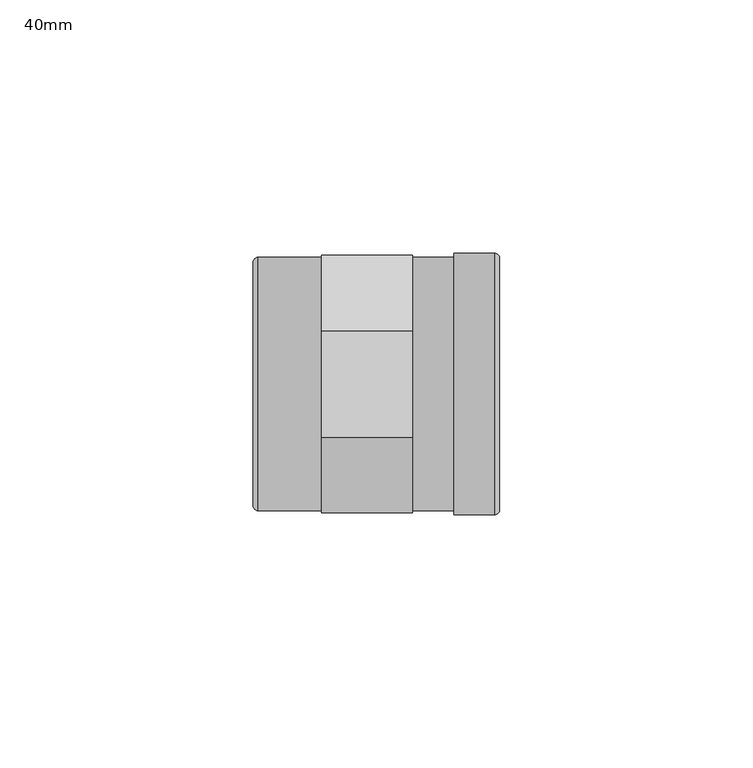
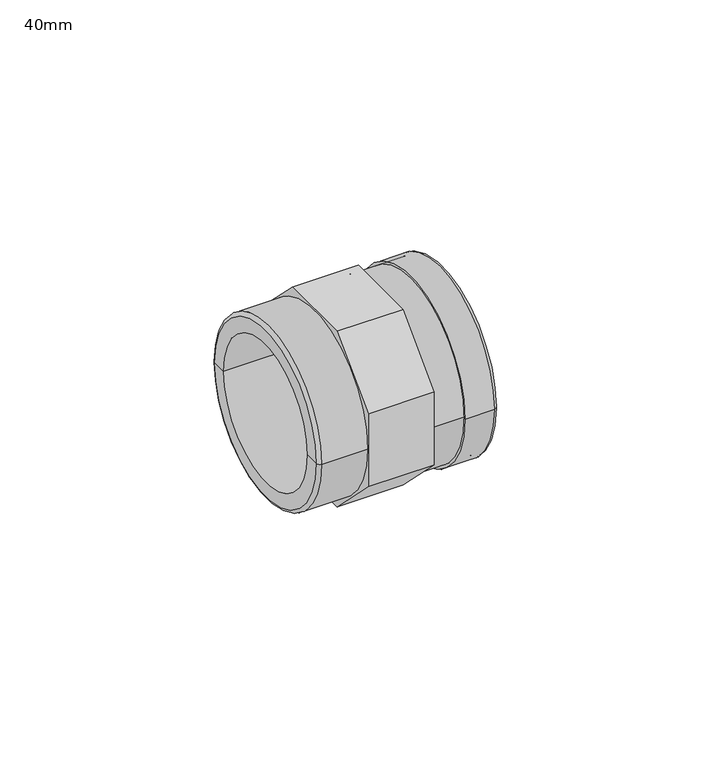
"""IFC4 building model written with IfcOpenShell, lengths in millimetres: pipe fitting geometry, Durapipe_PipeFitting_PVC_PlainThreadedSockets : 40mm."""

from ifc_helpers import new_model, si_unit, point, frame, origin, origin_2d, place, context, project, spatial, polyline, circle_curve, ellipse_curve, trimmed, segment, composite_curve, outline, extrude, source, transform, mapped, element, save
from ifc_brep_helpers import plane_surface, cylinder_surface, revolved_surface, advanced_brep


def pipe_fitting_40mm_57a51237(model_context):
    return source(origin(), model_context, "Body", "SolidModel", [
        extrude(outline(polyline([(-25.4, 10.5210245), (-10.5210245, 25.4), (10.5210245, 25.4), (25.4, 10.5210245), (25.4, -10.5210245), (10.5210245, -25.4), (-10.5210245, -25.4), (-25.4, -10.5210245), (-25.4, 10.5210245)]), holes=[composite_curve([segment(trimmed(circle_curve(origin_2d(), 25.0), [point((-25.0, 0.0))], [point((25.0, 0.0))], True, "CARTESIAN"), True, "CONTINUOUS"), segment(trimmed(circle_curve(origin_2d(), 25.0), [point((25.0, 0.0))], [point((-25.0, 0.0))], True, "CARTESIAN"), True, "CONTINUOUS")], self_intersect=False)]), frame((-15.0, 0.0, 0.0), z_axis=(1.0, 0.0, 0.0), x_axis=(0.0, 1.0, 0.0)), (0.0, 0.0, 1.0), 18.0),
        advanced_brep(
        [(17.7, -25.0, 0.0), (17.7, 25.0, 0.0), (17.7, 20.0, 0.0), (17.7, -20.0, 0.0), (-27.5, -25.0, 0.0), (-27.5, 25.0, 0.0), (-28.5, -20.0, 0.0), (-28.5, 20.0, 0.0), (-28.5, 24.0, 0.0), (-28.5, -24.0, 0.0), (-2.5, -20.0, 0.0), (-2.5, 20.0, 0.0), (-2.5, -18.7, 0.0), (-2.5, 18.7, 0.0), (2.5, -18.7, 0.0), (2.5, 18.7, 0.0), (2.5, -20.0, 0.0), (2.5, 20.0, 0.0)],
        [
            (0, 1, circle_curve(frame((17.7, 0.0, 0.0), z_axis=(1.0, 0.0, 0.0), x_axis=(0.0, 1.0, 0.0)), 25.0)),
            (1, 2),
            (2, 3, circle_curve(frame((17.7, 0.0, 0.0), z_axis=(-1.0, 0.0, 0.0), x_axis=(0.0, 1.0, 0.0)), 20.0)),
            (3, 0),
            (1, 0, circle_curve(frame((17.7, 0.0, 0.0), z_axis=(1.0, 0.0, 0.0), x_axis=(0.0, 1.0, 0.0)), 25.0)),
            (3, 2, circle_curve(frame((17.7, 0.0, 0.0), z_axis=(-1.0, 0.0, 0.0), x_axis=(0.0, 1.0, 0.0)), 20.0)),
            (4, 5, circle_curve(frame((-27.5, 0.0, 0.0), z_axis=(1.0, 0.0, 0.0), x_axis=(0.0, 1.0, 0.0)), 25.0)),
            (5, 1),
            (0, 4),
            (5, 4, circle_curve(frame((-27.5, 0.0, 0.0), z_axis=(1.0, 0.0, 0.0), x_axis=(0.0, 1.0, 0.0)), 25.0)),
            (6, 7, circle_curve(frame((-28.5, 0.0, 0.0), z_axis=(1.0, 0.0, 0.0), x_axis=(0.0, 1.0, 0.0)), 20.0)),
            (7, 8),
            (8, 9, circle_curve(frame((-28.5, 0.0, 0.0), z_axis=(-1.0, 0.0, 0.0), x_axis=(0.0, 1.0, 0.0)), 24.0)),
            (9, 6),
            (7, 6, circle_curve(frame((-28.5, 0.0, 0.0), z_axis=(1.0, 0.0, 0.0), x_axis=(0.0, 1.0, 0.0)), 20.0)),
            (9, 8, circle_curve(frame((-28.5, 0.0, 0.0), z_axis=(-1.0, 0.0, 0.0), x_axis=(0.0, 1.0, 0.0)), 24.0)),
            (10, 11, circle_curve(frame((-2.5, 0.0, 0.0), z_axis=(1.0, 0.0, 0.0), x_axis=(0.0, 1.0, 0.0)), 20.0)),
            (11, 7),
            (6, 10),
            (11, 10, circle_curve(frame((-2.5, 0.0, 0.0), z_axis=(1.0, 0.0, 0.0), x_axis=(0.0, 1.0, 0.0)), 20.0)),
            (12, 13, circle_curve(frame((-2.5, 0.0, 0.0), z_axis=(1.0, 0.0, 0.0), x_axis=(0.0, 1.0, 0.0)), 18.7)),
            (13, 11),
            (10, 12),
            (13, 12, circle_curve(frame((-2.5, 0.0, 0.0), z_axis=(1.0, 0.0, 0.0), x_axis=(0.0, 1.0, 0.0)), 18.7)),
            (14, 15, circle_curve(frame((2.5, 0.0, 0.0), z_axis=(1.0, 0.0, 0.0), x_axis=(0.0, 1.0, 0.0)), 18.7)),
            (15, 13),
            (12, 14),
            (15, 14, circle_curve(frame((2.5, 0.0, 0.0), z_axis=(1.0, 0.0, 0.0), x_axis=(0.0, 1.0, 0.0)), 18.7)),
            (16, 17, circle_curve(frame((2.5, 0.0, 0.0), z_axis=(1.0, 0.0, 0.0), x_axis=(0.0, 1.0, 0.0)), 20.0)),
            (17, 15),
            (14, 16),
            (17, 16, circle_curve(frame((2.5, 0.0, 0.0), z_axis=(1.0, 0.0, 0.0), x_axis=(0.0, 1.0, 0.0)), 20.0)),
            (2, 17),
            (16, 3),
            (8, 5, circle_curve(frame((-27.5, 24.0, 0.0), z_axis=(0.0, 0.0, -1.0), x_axis=(1.0, 0.0, 0.0)), 1.0)),
            (4, 9, circle_curve(frame((-27.5, -24.0, 0.0), z_axis=(0.0, 0.0, -1.0), x_axis=(1.0, 0.0, 0.0)), 1.0)),
        ],
        [
            plane_surface(frame((17.7, 0.0, 0.0), z_axis=(1.0, 0.0, 0.0), x_axis=(0.0, 1.0, 0.0))),
            cylinder_surface(frame((-44.0846764, 0.0, 0.0), z_axis=(-1.0, 0.0, 0.0), x_axis=(0.0, 1.0, 0.0)), 25.0),
            plane_surface(frame((-28.5, 0.0, 0.0), z_axis=(-1.0, 0.0, 0.0), x_axis=(0.0, 1.0, 0.0))),
            revolved_surface(polyline([(-28.5, 20.0, 0.0), (-2.5, 20.0, 0.0)]), (-44.0846764, 0.0, 0.0), (-1.0, 0.0, 0.0)),
            plane_surface(frame((-2.5, 0.0, 0.0), z_axis=(-1.0, 0.0, 0.0), x_axis=(0.0, 1.0, 0.0))),
            revolved_surface(polyline([(-2.5, 18.7, 0.0), (2.5, 18.7, 0.0)]), (-44.0846764, 0.0, 0.0), (-1.0, 0.0, 0.0)),
            plane_surface(frame((2.5, 0.0, 0.0), z_axis=(1.0, 0.0, 0.0), x_axis=(0.0, 1.0, 0.0))),
            revolved_surface(polyline([(2.5, 20.0, 0.0), (17.699999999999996, 20.0, 0.0)]), (-44.0846764, 0.0, 0.0), (-1.0, 0.0, 0.0)),
            revolved_surface(trimmed(ellipse_curve(frame((-27.5, 24.0, 0.0), z_axis=(0.0, 0.0, 1.0), x_axis=(1.0, 0.0, 0.0)), 1.0, 1.0), [point((-27.5, 25.0, 0.0))], [point((-28.5, 24.0, 0.0))], True, "CARTESIAN"), (-44.0846764, 0.0, 0.0), (-1.0, 0.0, 0.0)),
        ],
        [
            (0, [[1, 2, 3, 4]]),
            (0, [[5, -4, 6, -2]]),
            (1, [[7, 8, -1, 9]]),
            (1, [[10, -9, -5, -8]]),
            (2, [[11, 12, 13, 14]]),
            (2, [[15, -14, 16, -12]]),
            (3, [[17, 18, -11, 19]]),
            (3, [[20, -19, -15, -18]]),
            (4, [[21, 22, -17, 23]]),
            (4, [[24, -23, -20, -22]]),
            (5, [[25, 26, -21, 27]]),
            (5, [[28, -27, -24, -26]]),
            (6, [[29, 30, -25, 31]]),
            (6, [[32, -31, -28, -30]]),
            (7, [[-3, 33, -29, 34]]),
            (7, [[-6, -34, -32, -33]]),
            (8, [[-13, 35, -7, 36]]),
            (8, [[-16, -36, -10, -35]]),
        ],
    ),
        advanced_brep(
        [(11.2, -25.0, 0.0), (11.2, 25.0, 0.0), (11.2, 25.8, 0.0), (11.2, -25.8, 0.0), (17.7, -25.0, 0.0), (17.7, 25.0, 0.0), (17.7, -21.5, 0.0), (17.7, 21.5, 0.0), (20.2, -21.5, 0.0), (20.2, 21.5, 0.0), (20.2, -24.8, 0.0), (20.2, 24.8, 0.0), (19.2, 25.8, 0.0), (19.2, -25.8, 0.0)],
        [
            (0, 1, circle_curve(frame((11.2, 0.0, 0.0), z_axis=(1.0, 0.0, 0.0), x_axis=(0.0, 1.0, 0.0)), 25.0)),
            (1, 2),
            (2, 3, circle_curve(frame((11.2, 0.0, 0.0), z_axis=(-1.0, 0.0, 0.0), x_axis=(0.0, 1.0, 0.0)), 25.8)),
            (3, 0),
            (1, 0, circle_curve(frame((11.2, 0.0, 0.0), z_axis=(1.0, 0.0, 0.0), x_axis=(0.0, 1.0, 0.0)), 25.0)),
            (3, 2, circle_curve(frame((11.2, 0.0, 0.0), z_axis=(-1.0, 0.0, 0.0), x_axis=(0.0, 1.0, 0.0)), 25.8)),
            (4, 5, circle_curve(frame((17.7, 0.0, 0.0), z_axis=(1.0, 0.0, 0.0), x_axis=(0.0, 1.0, 0.0)), 25.0)),
            (5, 1),
            (0, 4),
            (5, 4, circle_curve(frame((17.7, 0.0, 0.0), z_axis=(1.0, 0.0, 0.0), x_axis=(0.0, 1.0, 0.0)), 25.0)),
            (6, 7, circle_curve(frame((17.7, 0.0, 0.0), z_axis=(1.0, 0.0, 0.0), x_axis=(0.0, 1.0, 0.0)), 21.5)),
            (7, 5),
            (4, 6),
            (7, 6, circle_curve(frame((17.7, 0.0, 0.0), z_axis=(1.0, 0.0, 0.0), x_axis=(0.0, 1.0, 0.0)), 21.5)),
            (8, 9, circle_curve(frame((20.2, 0.0, 0.0), z_axis=(1.0, 0.0, 0.0), x_axis=(0.0, 1.0, 0.0)), 21.5)),
            (9, 7),
            (6, 8),
            (9, 8, circle_curve(frame((20.2, 0.0, 0.0), z_axis=(1.0, 0.0, 0.0), x_axis=(0.0, 1.0, 0.0)), 21.5)),
            (10, 11, circle_curve(frame((20.2, 0.0, 0.0), z_axis=(1.0, 0.0, 0.0), x_axis=(0.0, 1.0, 0.0)), 24.8)),
            (11, 9),
            (8, 10),
            (11, 10, circle_curve(frame((20.2, 0.0, 0.0), z_axis=(1.0, 0.0, 0.0), x_axis=(0.0, 1.0, 0.0)), 24.8)),
            (2, 12),
            (12, 13, circle_curve(frame((19.2, 0.0, 0.0), z_axis=(-1.0, 0.0, 0.0), x_axis=(0.0, 1.0, 0.0)), 25.8)),
            (13, 3),
            (13, 12, circle_curve(frame((19.2, 0.0, 0.0), z_axis=(-1.0, 0.0, 0.0), x_axis=(0.0, 1.0, 0.0)), 25.8)),
            (12, 11, circle_curve(frame((19.2, 24.8, 0.0), z_axis=(0.0, 0.0, -1.0), x_axis=(1.0, 0.0, 0.0)), 1.0)),
            (10, 13, circle_curve(frame((19.2, -24.8, 0.0), z_axis=(0.0, 0.0, -1.0), x_axis=(1.0, 0.0, 0.0)), 1.0)),
        ],
        [
            plane_surface(frame((11.2, 0.0, 0.0), z_axis=(-1.0, 0.0, 0.0), x_axis=(0.0, 1.0, 0.0))),
            revolved_surface(polyline([(11.2, 25.0, 0.0), (17.7, 25.0, 0.0)]), (26.1037641, 0.0, 0.0), (-1.0, 0.0, 0.0)),
            plane_surface(frame((17.7, 0.0, 0.0), z_axis=(-1.0, 0.0, 0.0), x_axis=(0.0, 1.0, 0.0))),
            revolved_surface(polyline([(17.7, 21.5, 0.0), (20.2, 21.5, 0.0)]), (26.1037641, 0.0, 0.0), (-1.0, 0.0, 0.0)),
            plane_surface(frame((20.2, 0.0, 0.0), z_axis=(1.0, 0.0, 0.0), x_axis=(0.0, 1.0, 0.0))),
            cylinder_surface(frame((26.1037641, 0.0, 0.0), z_axis=(-1.0, 0.0, 0.0), x_axis=(0.0, 1.0, 0.0)), 25.8),
            revolved_surface(trimmed(ellipse_curve(frame((19.2, 24.8, 0.0), z_axis=(0.0, 0.0, 1.0), x_axis=(1.0, 0.0, 0.0)), 1.0, 1.0), [point((20.2, 24.8, 0.0))], [point((19.2, 25.8, 0.0))], True, "CARTESIAN"), (26.1037641, 0.0, 0.0), (-1.0, 0.0, 0.0)),
        ],
        [
            (0, [[1, 2, 3, 4]]),
            (0, [[5, -4, 6, -2]]),
            (1, [[7, 8, -1, 9]]),
            (1, [[10, -9, -5, -8]]),
            (2, [[11, 12, -7, 13]]),
            (2, [[14, -13, -10, -12]]),
            (3, [[15, 16, -11, 17]]),
            (3, [[18, -17, -14, -16]]),
            (4, [[19, 20, -15, 21]]),
            (4, [[22, -21, -18, -20]]),
            (5, [[-3, 23, 24, 25]]),
            (5, [[-6, -25, 26, -23]]),
            (6, [[-24, 27, -19, 28]]),
            (6, [[-26, -28, -22, -27]]),
        ],
    ),
    ])


if __name__ == "__main__":
    model = new_model("IFC4")
    model_context = context("Model", 3, world=origin())
    ifc_project = project(units=[si_unit("LENGTHUNIT", "METRE", prefix="MILLI")], contexts=[model_context])
    site = spatial("IfcSite", under=ifc_project)
    building = spatial("IfcBuilding", under=site)
    placement = place(None, origin())
    pipe_fitting_40mm_shape = pipe_fitting_40mm_57a51237(model_context)
    element("IfcPipeFitting", 1, ObjectType="Durapipe_PipeFitting_PVC_PlainThreadedSockets : 40mm", at=placement, inside=building, context=model_context, shape_type="MappedRepresentation", body=[
        mapped(pipe_fitting_40mm_shape, transform((0.0, 0.0, 0.0), x_axis=(1.0, 0.0, 0.0), y_axis=(0.0, 1.0, 0.0), z_axis=(0.0, 0.0, 1.0))),
    ])
    save(model, "model.ifc")
